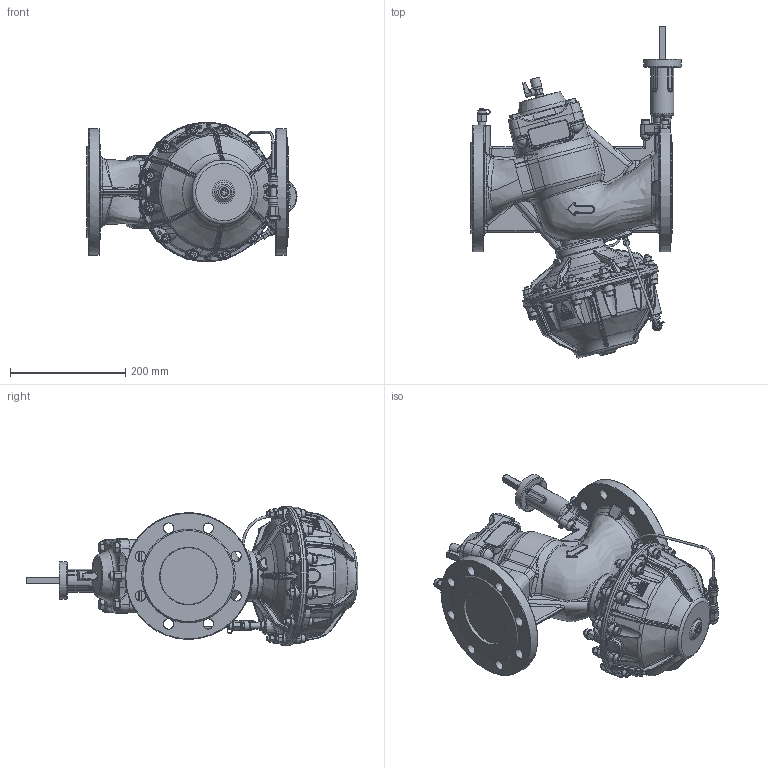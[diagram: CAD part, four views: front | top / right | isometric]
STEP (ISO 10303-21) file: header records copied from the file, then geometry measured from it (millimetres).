
FILE_DESCRIPTION (( 'STEP AP203' ), '1' );
FILE_NAME ('EKOFLUX.PI10016.STEP', '2017-12-18T06:59:59', ( 'dell2' ), ( 'Microsoft' ), 'SwSTEP 2.0', 'SolidWorks 2014', '' );
FILE_SCHEMA (( 'CONFIG_CONTROL_DESIGN' ));
Products named in the file (1): EKOFLUX.PI10016
Bounding box: 364.91 x 576.46 x 241.52 mm (x, y, z)
Volume: 11601674.2 mm3; surface area: 609022.6 mm2
Topology: 1 solids, 36 shells, 4421 faces, 10731 edges, 6482 vertices
Faces by surface type: bspline 1586, plane 1327, cylinder 590, cone 572, torus 299, sphere 47
Full cylindrical faces by diameter (mm): 3.8 x3, 4 x6, 5.408 x2, 6.5 x12, 6.75 x3, 7.4 x2, 7.895 x1, 8 x40, 8.5 x27, 8.9 x2, 9 x4, 9.2 x2, 9.6 x1, 9.7 x2, 9.763 x2, 9.8 x4, 11.445 x2, 11.45 x1, 11.5 x4, 11.7 x1, 12 x1, 13 x15, 13.15 x1, 13.157 x3, 14.5 x1, 14.95 x1, 15 x3, 15.6 x1, 16 x4, 16.6 x1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
Entity records: 213659 total; most frequent: CARTESIAN_POINT 126113, ORIENTED_EDGE 20330, DIRECTION 14504, EDGE_CURVE 10165, VERTEX_POINT 6296, AXIS2_PLACEMENT_3D 6024, EDGE_LOOP 5009, FACE_OUTER_BOUND 4664
